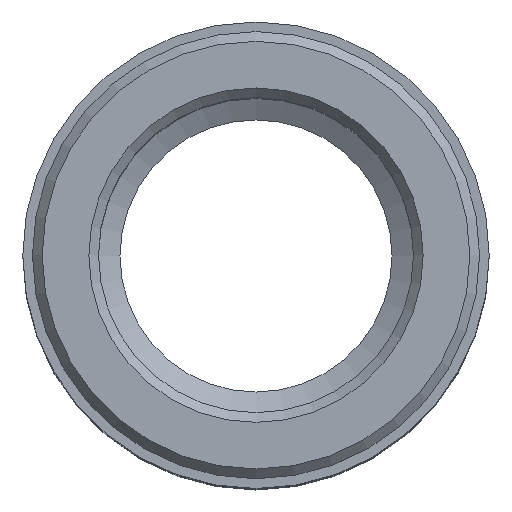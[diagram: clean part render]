
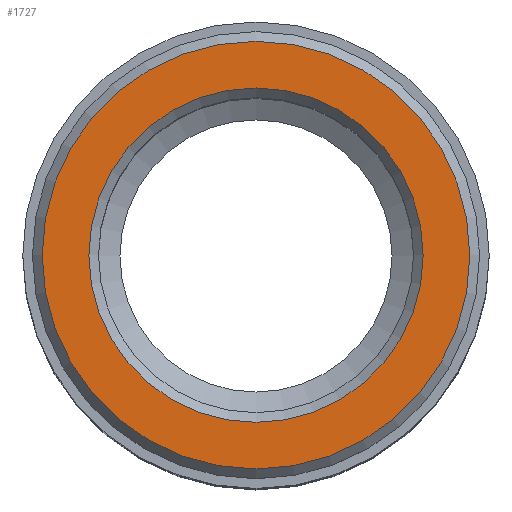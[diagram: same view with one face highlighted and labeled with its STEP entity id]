
A CAD part, top view. The second image highlights one B-rep face of the part: STEP entity #1727.
In plain terms, the highlighted planar face has unit normal (0, 0, 1) as drawn and (0, 1, 0) by its records, which use the part's own axes.
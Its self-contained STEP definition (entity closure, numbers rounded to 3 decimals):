
#707=ORIENTED_EDGE('',*,*,#904,.T.);
#708=ORIENTED_EDGE('',*,*,#905,.F.);
#792=CIRCLE('',#1623,11.);
#793=CIRCLE('',#1625,8.6);
#848=VERTEX_POINT('',#1476);
#849=VERTEX_POINT('',#1479);
#904=EDGE_CURVE('',#848,#848,#792,.T.);
#905=EDGE_CURVE('',#849,#849,#793,.T.);
#987=EDGE_LOOP('',(#707));
#988=EDGE_LOOP('',(#708));
#1099=FACE_BOUND('',#987,.T.);
#1100=FACE_BOUND('',#988,.T.);
#1269=DIRECTION('',(0.,1.,0.));
#1270=DIRECTION('',(0.,0.,11.));
#1271=DIRECTION('',(0.,1.,0.));
#1272=DIRECTION('',(1.,0.,0.));
#1273=DIRECTION('',(0.,1.,0.));
#1274=DIRECTION('',(0.,0.,8.6));
#1476=CARTESIAN_POINT('',(123.303,71.308,0.));
#1477=CARTESIAN_POINT('',(112.303,71.308,0.));
#1478=CARTESIAN_POINT('',(112.303,71.308,0.));
#1479=CARTESIAN_POINT('',(120.903,71.308,0.));
#1480=CARTESIAN_POINT('',(112.303,71.308,0.));
#1623=AXIS2_PLACEMENT_3D('',#1477,#1269,#1270);
#1624=AXIS2_PLACEMENT_3D('',#1478,#1271,#1272);
#1625=AXIS2_PLACEMENT_3D('',#1480,#1273,#1274);
#1694=PLANE('',#1624);
#1727=ADVANCED_FACE('',(#1099,#1100),#1694,.T.);
